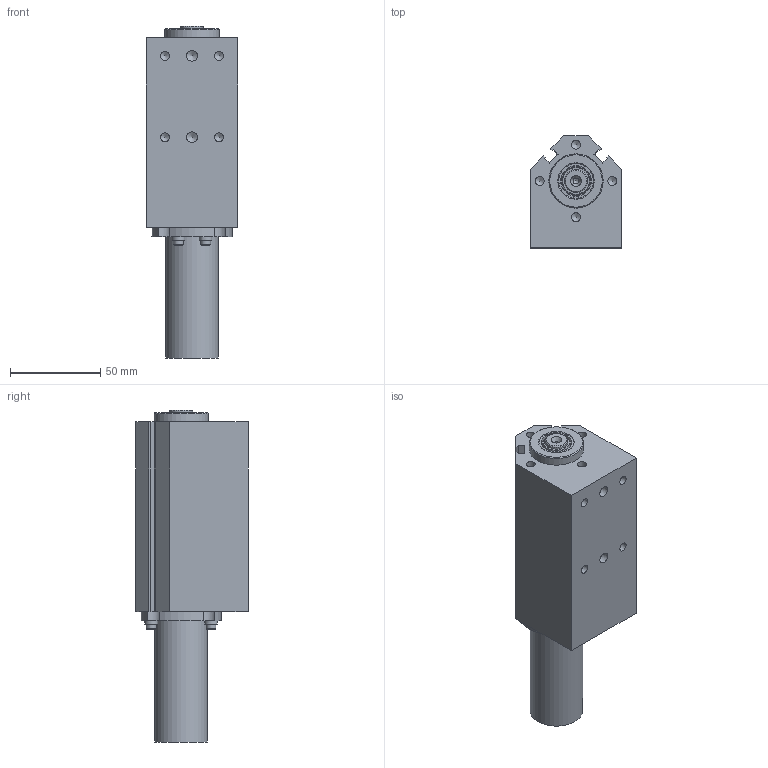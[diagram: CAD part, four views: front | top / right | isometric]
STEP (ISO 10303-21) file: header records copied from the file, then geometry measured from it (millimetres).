
FILE_DESCRIPTION(/* description */ (''),/* implementation_level */ '2;1');
FILE_NAME(/* name */ 'C:\Users\NNemeth\OneDrive - WELKER ENGINEERED PRODUCTS\BP1 Models\BP1XXXBXE00.stp',/* time_stamp */ '2022-07-11T17:00:09-04:00',/* author */ ('NNemeth'),/* organization */ (''),/* preprocessor_version */ 'ST-DEVELOPER v18',/* originating_system */ 'Autodesk Inventor 2020',/* authorisation */ '');
FILE_SCHEMA (('AUTOMOTIVE_DESIGN { 1 0 10303 214 3 1 1 }'));
Products named in the file (3): BP1_Assembly; BP1E02B; BP1 B Spring
Assembly tree (2 placements, depth 2):
  BP1_Assembly
    BP1E02B
    BP1 B Spring
Bounding box: 50.8 x 62 x 183.5 mm (x, y, z)
Volume: 279328.3 mm3; surface area: 60371.3 mm2
Topology: 2 solids, 10 shells, 210 faces, 515 edges, 350 vertices
Faces by surface type: plane 110, cylinder 62, cone 34, torus 4
Full cylindrical faces by diameter (mm): 2 x2, 2.459 x4, 3 x4, 3.175 x1, 3.4 x4, 3.5 x4, 4.917 x8, 5.5 x4, 6 x2, 7 x4, 8 x1, 12.7 x3, 15 x1, 17.05 x1, 17.069 x1, 19.05 x1, 22.225 x1, 27 x1, 28.677 x1, 29 x1, 29.21 x1, 30 x1, 31.75 x2, 31.826 x1
Entity records: 6666 total; most frequent: DIRECTION 1176, CARTESIAN_POINT 1140, ORIENTED_EDGE 1000, EDGE_CURVE 500, AXIS2_PLACEMENT_3D 466, VERTEX_POINT 350, EDGE_LOOP 262, CIRCLE 251
